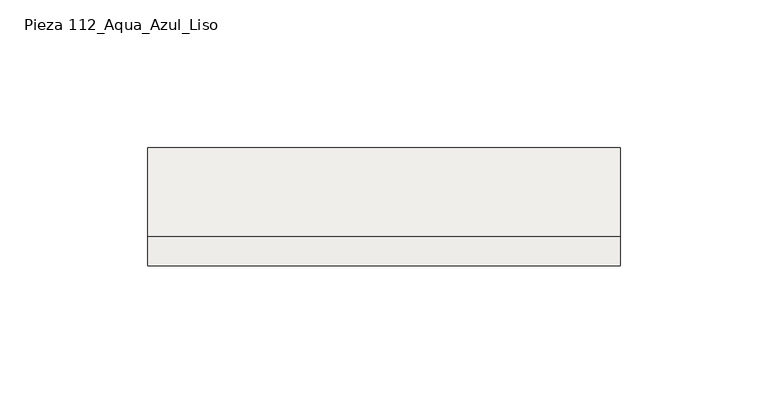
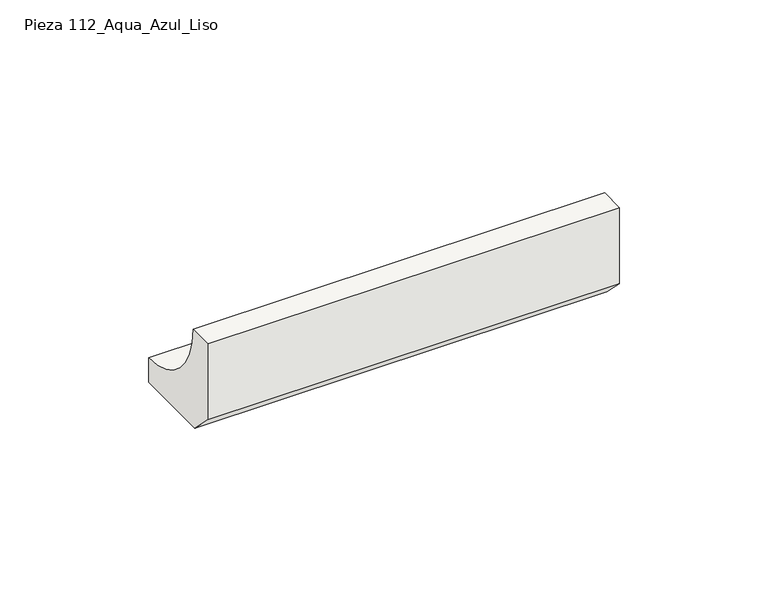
"""IFC4 building model written with IfcOpenShell, lengths in millimetres: slab geometry, ROSA GRES_112 : Pieza 112_Aqua_Azul_Liso."""

from ifc_helpers import new_model, si_unit, point, frame, frame_2d, origin, place, context, project, spatial, polyline, circle_curve, trimmed, segment, composite_curve, outline, extrude, source, transform, mapped, element, save


def pieza_112_aqua_azul_liso_7a75cb70(model_context):
    return source(origin(), model_context, "Body", "SweptSolid", [
        extrude(outline(composite_curve([segment(polyline([(0.0, 8.7114978), (0.0, 40.0), (9.9734114, 40.0)]), True, "CONTINUOUS"), segment(trimmed(circle_curve(frame_2d((39.9955547, 39.9955547)), 30.0221435), [point((9.9734114, 40.0))], [point((40.0, 9.9734114))], True, "CARTESIAN"), True, "CONTINUOUS"), segment(polyline([(40.0, 9.9734114), (40.0, 0.0), (8.7114978, 0.0), (0.0, 8.7114978)]), True, "CONTINUOUS")], self_intersect=False)), frame((0.0, 0.0, 0.0), z_axis=(1.0, 0.0, 0.0), x_axis=(0.0, 1.0, 0.0)), (0.0, 0.0, 1.0), 160.0),
    ])


if __name__ == "__main__":
    model = new_model("IFC4")
    model_context = context("Model", 3, world=origin())
    ifc_project = project(units=[si_unit("LENGTHUNIT", "METRE", prefix="MILLI")], contexts=[model_context])
    site = spatial("IfcSite", under=ifc_project)
    building = spatial("IfcBuilding", under=site)
    placement = place(None, origin())
    pieza_112_aqua_azul_liso_shape = pieza_112_aqua_azul_liso_7a75cb70(model_context)
    element("IfcSlab", 1, ObjectType="ROSA GRES_112 : Pieza 112_Aqua_Azul_Liso", at=placement, inside=building, context=model_context, shape_type="MappedRepresentation", body=[
        mapped(pieza_112_aqua_azul_liso_shape, transform((0.0, 0.0, 0.0), x_axis=(1.0, 0.0, 0.0), y_axis=(0.0, 1.0, 0.0), z_axis=(0.0, 0.0, 1.0))),
    ])
    save(model, "model.ifc")
